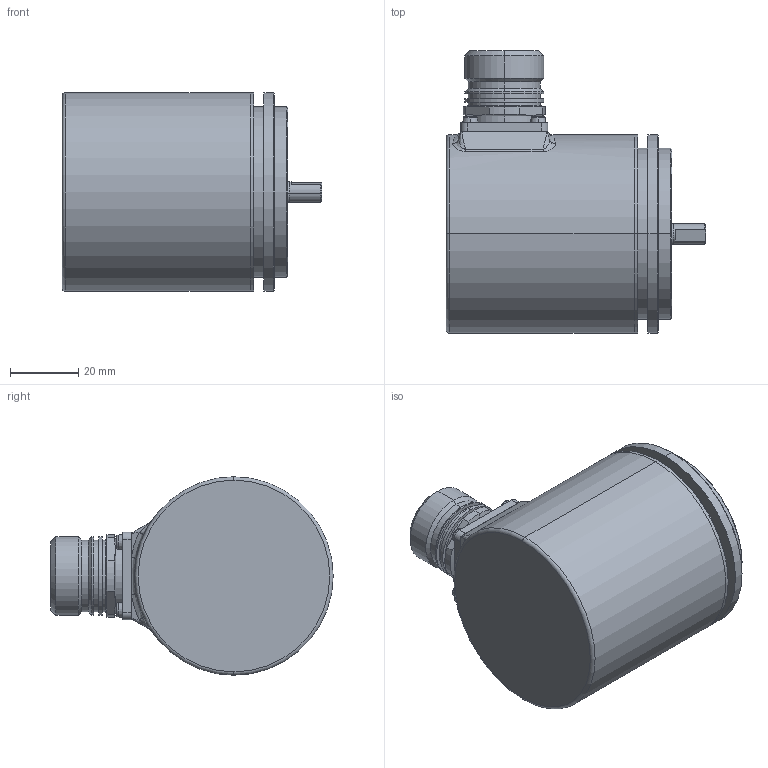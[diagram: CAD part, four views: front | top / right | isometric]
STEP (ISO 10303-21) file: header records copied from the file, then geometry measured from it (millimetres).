
FILE_DESCRIPTION (( 'STEP AP214' ), '1' );
FILE_NAME ('5805.21X5.XXXX.STEP', '2010-12-14T09:02:02', ( 'admin' ), ( 'Fritz Kübler GmbH' ), 'SwSTEP 2.0', 'SolidWorks 2009', '' );
FILE_SCHEMA (( 'AUTOMOTIVE_DESIGN' ));
Length unit declared in the file: millimetre
Products named in the file (1): 5805.21X5.XXXX
Bounding box: 75.95 x 82.5 x 58 mm (x, y, z)
Surface area: 26958.5 mm2 (no closed solid volume)
Topology: 0 solids, 33 shells, 299 faces, 799 edges, 522 vertices
Faces by surface type: cylinder 113, plane 77, torus 38, cone 33, sphere 24, bspline 14
Entity records: 14554 total; most frequent: CARTESIAN_POINT 3681, DIRECTION 1776, ORIENTED_EDGE 1354, EDGE_CURVE 775, AXIS2_PLACEMENT_3D 755, VERTEX_POINT 522, CIRCLE 469, EDGE_LOOP 358
